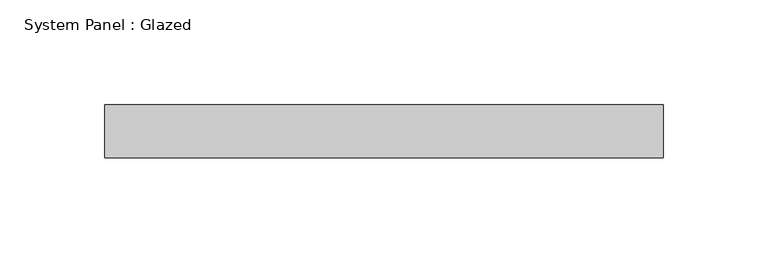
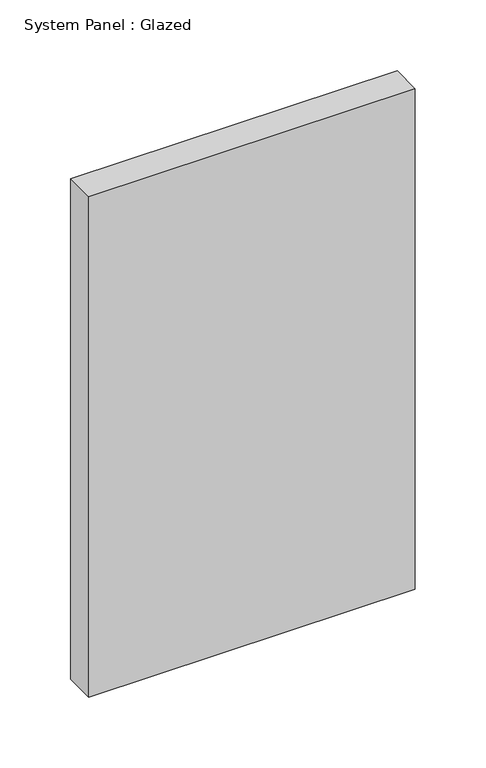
"""IFC4 building model written with IfcOpenShell, lengths in millimetres: plate geometry, System Panel : Glazed."""

from ifc_helpers import new_model, si_unit, origin, origin_with_axes, place, context, project, spatial, polyline, outline, extrude, source, transform, mapped, element, save


def system_panel_glazed_b93c52a1(model_context):
    return source(origin(), model_context, "Body", "SweptSolid", [
        extrude(outline(polyline([(133.3499998, -44.45), (-133.3499998, -44.45), (-133.3499998, -19.05), (133.3499998, -19.05), (133.3499998, -44.45)])), origin_with_axes(), (0.0, 0.0, 1.0), 431.8),
    ])


if __name__ == "__main__":
    model = new_model("IFC4")
    model_context = context("Model", 3, world=origin())
    ifc_project = project(units=[si_unit("LENGTHUNIT", "METRE", prefix="MILLI")], contexts=[model_context])
    site = spatial("IfcSite", under=ifc_project)
    building = spatial("IfcBuilding", under=site)
    placement = place(None, origin())
    system_panel_glazed_shape = system_panel_glazed_b93c52a1(model_context)
    element("IfcPlate", 1, ObjectType="System Panel : Glazed", at=placement, inside=building, context=model_context, shape_type="MappedRepresentation", body=[
        mapped(system_panel_glazed_shape, transform((0.0, 0.0, 0.0), x_axis=(1.0, 0.0, 0.0), y_axis=(0.0, 1.0, 0.0), z_axis=(0.0, 0.0, 1.0))),
    ])
    save(model, "model.ifc")
